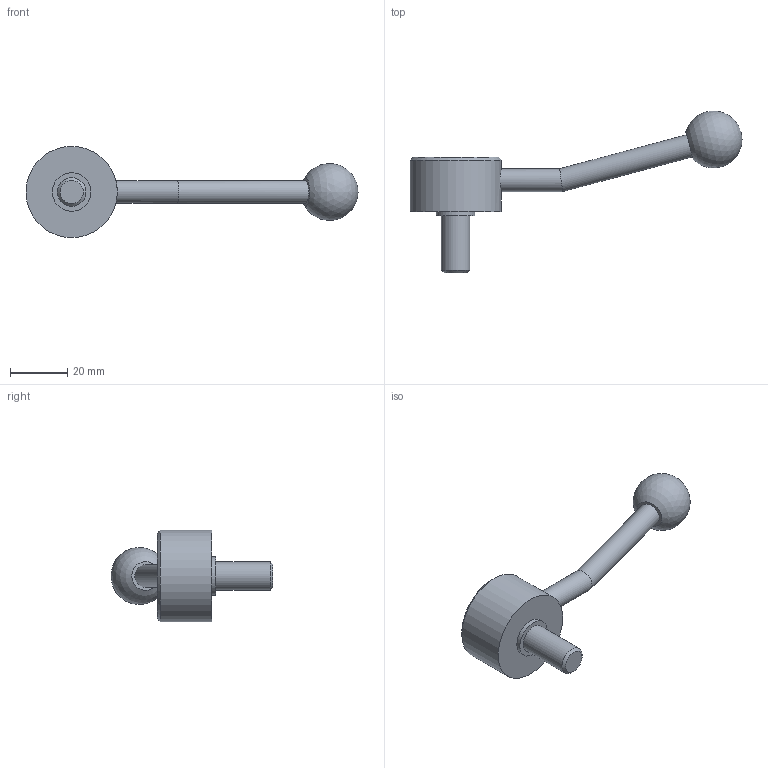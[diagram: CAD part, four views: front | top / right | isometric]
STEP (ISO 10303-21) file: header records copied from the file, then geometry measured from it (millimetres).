
FILE_DESCRIPTION( ( 'STEP AP203' ), '1' );
FILE_NAME( 'C:/Temp/Ganter_Step_05_03_2020/data/2_1/gn_125/gn_125_ms/gn_125_ms_e/Flat Adjustable Lever GN 125-32-M10-20-E.stp', '2020-03-05T11:00:55', ( 'License CC BY-ND 4.0' ), ( 'CADENAS' ), ' ', 'PARTsolutions', ' ' );
FILE_SCHEMA( ( 'CONFIG_CONTROL_DESIGN' ) );
Length unit declared in the file: millimetre
Products named in the file (1): _Flat Adjustable Lever GN 125-32-M10-20-E
Bounding box: 116.34 x 56.72 x 32 mm (x, y, z)
Volume: 24446.2 mm3; surface area: 7004.4 mm2
Topology: 1 solids, 1 shells, 15 faces, 26 edges, 17 vertices
Faces by surface type: cylinder 6, plane 6, cone 2, sphere 1
Full cylindrical faces by diameter (mm): 8 x2, 10 x1, 13.5 x1, 22 x1, 32 x1
Entity records: 404 total; most frequent: CARTESIAN_POINT 110, DIRECTION 58, AXIS2_PLACEMENT_3D 29, EDGE_LOOP 28, ORIENTED_EDGE 28, FACE_OUTER_BOUND 21, ADVANCED_FACE 15, VERTEX_POINT 15
